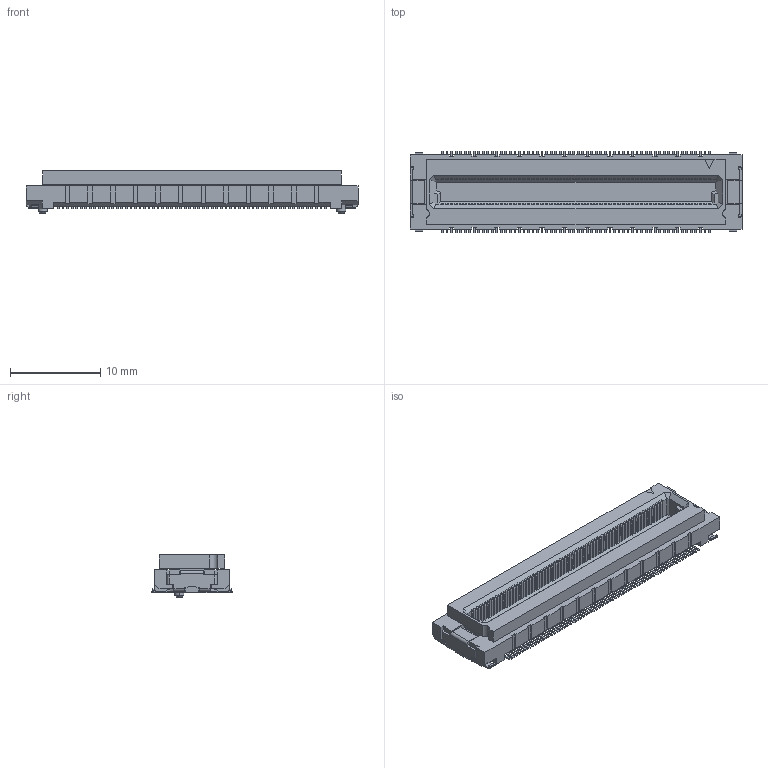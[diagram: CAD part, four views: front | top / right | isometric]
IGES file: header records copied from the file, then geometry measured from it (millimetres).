
Start section: Elysium IGES Interface
Global section: file name: 106HG:\その他\DY関連\CAD\依頼書（ウェブ）_HP用データ\60-36-0111_DY03-DY04\DY03-120S-BT\P3C035_DY03-120S-BT.igs; native system: Creo Elements/Direct Modeling 20.4A  18-Oct-2021; preprocessor: Creo Element/Direct IGES_3D V2.2; author: Unknown; organization: Unknown; date: 20220228.115716; units: millimetre
Bounding box: 36.7 x 9 x 4.65 mm (x, y, z)
Volume: 769 mm3; surface area: 1758.3 mm2
Topology: 1 solids, 1 shells, 5067 faces, 14195 edges, 9374 vertices
Faces by surface type: bspline 5067
